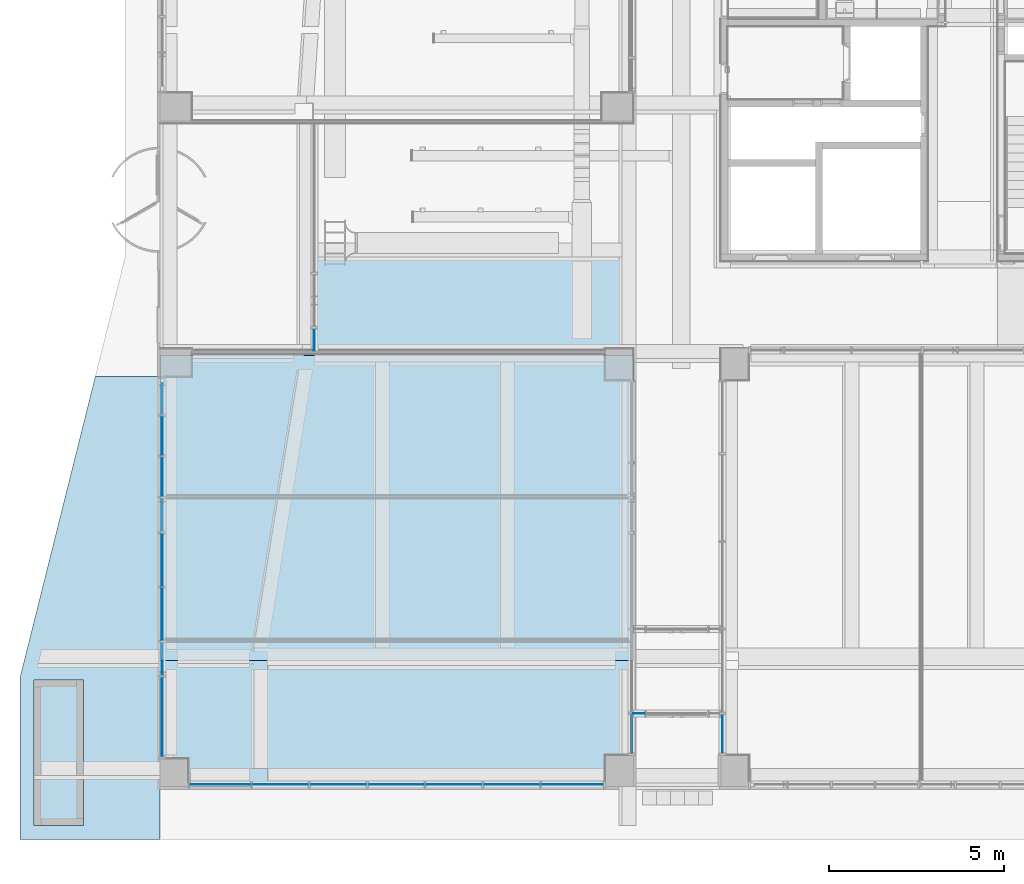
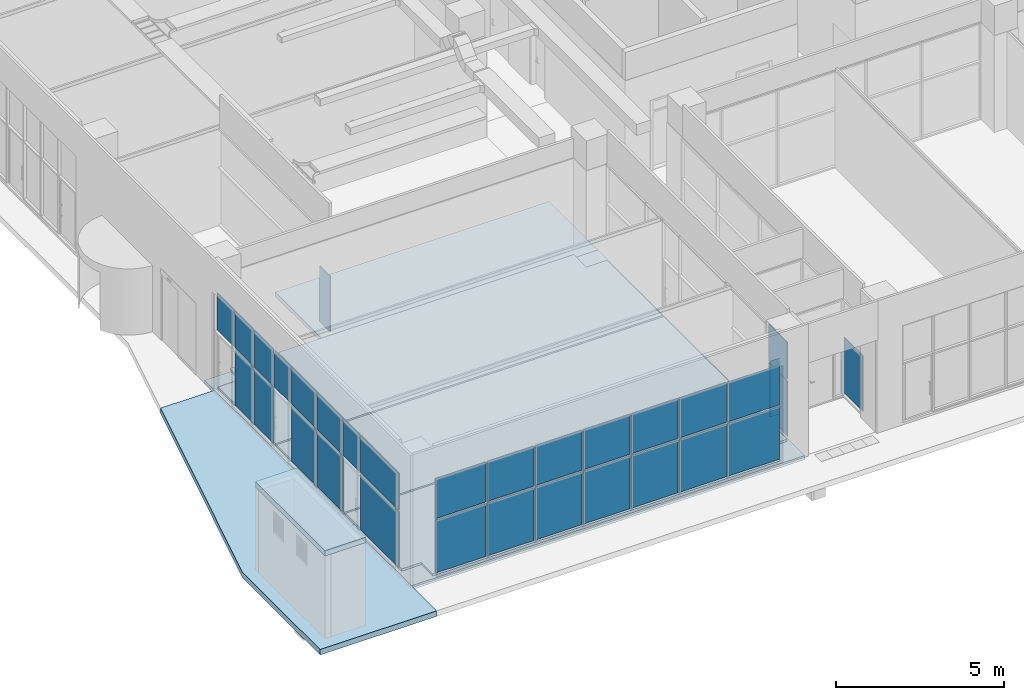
# One storey, part 21 of 100: 32 plates, 8 slabs, 7 elements without a shape of their own.
"""IFC2X3 building model written with IfcOpenShell, lengths in millimetres."""

from ifc_helpers import new_model, entity, si_unit, converted_unit, derived_unit, direction, frame, frame_2d, origin, origin_2d_with_axis, place, context, subcontext, project, spatial, polyline, rectangle, outline, extrude, source, transform, mapped, material, layer, layer_set, layer_usage, type_object, type_shapes, element, aggregate, save


model = new_model("IFC2X3")

# Units and contexts
model_context = context("Model", 3, precision=0.01, world=origin(), true_north=direction((6.123031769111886e-17, 1.0)))
body_context = subcontext(model_context, "Body", "Model", "MODEL_VIEW")
ifc_project = project(units=[si_unit("LENGTHUNIT", "METRE", prefix="MILLI"), si_unit("AREAUNIT", "SQUARE_METRE"), si_unit("VOLUMEUNIT", "CUBIC_METRE"), converted_unit("PLANEANGLEUNIT", "DEGREE", entity("IfcRatioMeasure", 0.017453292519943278), si_unit("PLANEANGLEUNIT", "RADIAN"), dimensions=[0, 0, 0, 0, 0, 0, 0]), si_unit("MASSUNIT", "GRAM", prefix="KILO"), derived_unit("MASSDENSITYUNIT", [(si_unit("MASSUNIT", "GRAM", prefix="KILO"), 1), (si_unit("LENGTHUNIT", "METRE"), -3)]), derived_unit("MOMENTOFINERTIAUNIT", [(si_unit("LENGTHUNIT", "METRE"), 4)]), si_unit("TIMEUNIT", "SECOND"), si_unit("FREQUENCYUNIT", "HERTZ"), si_unit("THERMODYNAMICTEMPERATUREUNIT", "DEGREE_CELSIUS"), derived_unit("THERMALTRANSMITTANCEUNIT", [(si_unit("MASSUNIT", "GRAM", prefix="KILO"), 1), (si_unit("THERMODYNAMICTEMPERATUREUNIT", "KELVIN"), -1), (si_unit("TIMEUNIT", "SECOND"), -3)]), derived_unit("VOLUMETRICFLOWRATEUNIT", [(si_unit("LENGTHUNIT", "METRE"), 3), (si_unit("TIMEUNIT", "SECOND"), -1)]), derived_unit("MASSFLOWRATEUNIT", [(si_unit("MASSUNIT", "GRAM", prefix="KILO"), 1), (si_unit("TIMEUNIT", "SECOND"), -1)]), derived_unit("ROTATIONALFREQUENCYUNIT", [(si_unit("TIMEUNIT", "SECOND"), -1)]), si_unit("ELECTRICCURRENTUNIT", "AMPERE"), si_unit("ELECTRICVOLTAGEUNIT", "VOLT"), si_unit("POWERUNIT", "WATT"), si_unit("FORCEUNIT", "NEWTON", prefix="KILO"), si_unit("ILLUMINANCEUNIT", "LUX"), si_unit("LUMINOUSFLUXUNIT", "LUMEN"), si_unit("LUMINOUSINTENSITYUNIT", "CANDELA"), derived_unit("USERDEFINED", [(si_unit("MASSUNIT", "GRAM", prefix="KILO"), -1), (si_unit("LENGTHUNIT", "METRE"), -2), (si_unit("TIMEUNIT", "SECOND"), 3), (si_unit("LUMINOUSFLUXUNIT", "LUMEN"), 1)]), derived_unit("SOUNDPOWERUNIT", [(si_unit("MASSUNIT", "GRAM", prefix="KILO"), 1), (si_unit("LENGTHUNIT", "METRE"), 2), (si_unit("TIMEUNIT", "SECOND"), -3)]), derived_unit("SOUNDPRESSUREUNIT", [(si_unit("MASSUNIT", "GRAM", prefix="KILO"), 1), (si_unit("LENGTHUNIT", "METRE"), -1), (si_unit("TIMEUNIT", "SECOND"), -2)]), derived_unit("LINEARVELOCITYUNIT", [(si_unit("LENGTHUNIT", "METRE"), 1), (si_unit("TIMEUNIT", "SECOND"), -1)]), si_unit("PRESSUREUNIT", "PASCAL"), derived_unit("USERDEFINED", [(si_unit("LENGTHUNIT", "METRE"), -2), (si_unit("MASSUNIT", "GRAM", prefix="KILO"), 1), (si_unit("TIMEUNIT", "SECOND"), -2)]), derived_unit("LINEARFORCEUNIT", [(si_unit("MASSUNIT", "GRAM", prefix="KILO"), 1), (si_unit("LENGTHUNIT", "METRE"), 1), (si_unit("TIMEUNIT", "SECOND"), -2), (si_unit("LENGTHUNIT", "METRE"), -1)]), derived_unit("PLANARFORCEUNIT", [(si_unit("MASSUNIT", "GRAM", prefix="KILO"), 1), (si_unit("LENGTHUNIT", "METRE"), 1), (si_unit("TIMEUNIT", "SECOND"), -2), (si_unit("LENGTHUNIT", "METRE"), -2)])], contexts=[model_context])

# Site, building, storey
site_placement = place(None, frame((-14167.972527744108, -657.2125860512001, 0.0)))
site = spatial("IfcSite", under=ifc_project, at=site_placement, Name="Default", CompositionType="ELEMENT")
building_placement = place(site_placement, origin())
building = spatial("IfcBuilding", under=site, at=building_placement, Name="Sample Building", CompositionType="ELEMENT")
storey_placement = place(building_placement, origin())
storey = spatial("IfcBuildingStorey", under=building, at=storey_placement, Name="지상 1층", CompositionType="ELEMENT", Elevation=0.0)

# Slabs
ifc_material_1 = material(Name="KBIMS-콘크리트")
ifc_layer_1 = layer(ifc_material_1, 150.0)
ifc_layer_set_1 = layer_set([ifc_layer_1], Name="바닥:SL111-철근콘크리트구조 바닥 150mm_S3")
ifc_layer_usage_1 = layer_usage(ifc_layer_set_1, "AXIS3", "POSITIVE", 0.0)
slab_type_1 = type_object("IfcSlabType", Name="바닥:SL111-철근콘크리트구조 바닥 150mm_S3", PredefinedType="FLOOR", material=ifc_layer_set_1)
slab_1_placement = place(storey_placement, origin())
element("IfcSlab", 1, at=slab_1_placement, inside=storey, type_object=slab_type_1, material=ifc_layer_usage_1, Name="바닥:SL111-철근콘크리트구조 바닥 150mm_S3", ObjectType="바닥:SL111-철근콘크리트구조 바닥 150mm_S3", PredefinedType="FLOOR", context=body_context, shape_type="SweptSolid", body=[
    extrude(rectangle(XDim=3600.0001879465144, YDim=13499.999999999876, at=origin_2d_with_axis()), frame((20817.955105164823, 2357.212289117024, 0.0), z_axis=(0.0, 0.0, -1.0), x_axis=(0.0, 1.0, 0.0)), (0.0, 0.0, 1.0), 150.0),
])
ifc_material_2 = material(Name="SL341-테라조 바닥 (바탕48mm, 마감32mm)")
ifc_layer_2 = layer(ifc_material_2, 80.0)
ifc_layer_set_2 = layer_set([ifc_layer_2], Name="바닥:A1-14-06B-테라조타일 (80mm)")
ifc_layer_usage_2 = layer_usage(ifc_layer_set_2, "AXIS3", "POSITIVE", 0.0)
slab_type_2 = type_object("IfcSlabType", Name="바닥:A1-14-06B-테라조타일 (80mm)", PredefinedType="FLOOR", material=ifc_layer_set_2)
slab_2_placement = place(storey_placement, origin())
element("IfcSlab", 2, at=slab_2_placement, inside=storey, type_object=slab_type_2, material=ifc_layer_usage_2, Name="바닥:A1-14-06B-테라조타일 (80mm)", ObjectType="바닥:A1-14-06B-테라조타일 (80mm)", PredefinedType="FLOOR", context=body_context, shape_type="SweptSolid", body=[
    extrude(outline(polyline([(-2688.776084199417, -6658.758692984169), (711.2586020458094, -6658.758692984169), (711.2586020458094, -5883.741343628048), (1366.2588801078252, -5883.741343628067), (1366.2588801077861, 5916.258692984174), (611.2586020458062, 5916.258692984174), (611.2586020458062, 6626.241343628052), (-2688.776084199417, 6626.241343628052), (-2688.776084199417, -6658.758692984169)])), frame((20851.713798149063, 11545.953705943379, 80.0), z_axis=(0.0, 0.0, -1.0), x_axis=(0.0, 1.0, 0.0)), (0.0, 0.0, 1.0), 80.0),
])

# Curtain wall, plates
curtain_wall_type = type_object("IfcCurtainWallType", Name="커튼월:CW112-스테인리스 스틸 커튼월", PredefinedType="NOTDEFINED")
curtain_wall_1_placement = place(storey_placement, origin())
curtain_wall_1 = element("IfcCurtainWall", 3, at=curtain_wall_1_placement, inside=storey, type_object=curtain_wall_type, Name="커튼월:CW112-스테인리스 스틸 커튼월", ObjectType="커튼월:CW112-스테인리스 스틸 커튼월")
ifc_material_3 = material(Name="KBIMS-로이유리(코팅)")
plate_type_1 = type_object("IfcPlateType", Name="CW300-THK24.Low-e coating glass:CW300-THK24.Low-e coating glass", PredefinedType="CURTAIN_PANEL", material=ifc_material_3)
shared_shape_1 = source(origin(), body_context, "Body", "SweptSolid", [
    extrude(rectangle(XDim=950.0000000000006, YDim=24.000000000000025, at=origin_2d_with_axis()), frame((0.0, 0.0, 0.0), z_axis=(0.0, 0.0, 1.0), x_axis=(-1.0, 0.0, 0.0)), (0.0, 0.0, 1.0), 1345.000000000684),
])
type_shapes(plate_type_1, [shared_shape_1])
plate_1_placement = place(curtain_wall_1_placement, frame((14129.839654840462, 4207.177624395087, 2205.0), z_axis=(0.0, 0.0, 1.0), x_axis=(0.0, -1.0, 0.0)))
plate_1 = element("IfcPlate", 4, at=plate_1_placement, type_object=plate_type_1, material=ifc_material_3, Name="CW300-THK24.Low-e coating glass:CW300-THK24.Low-e coating glass", ObjectType="CW300-THK24.Low-e coating glass:CW300-THK24.Low-e coating glass", context=body_context, shape_type="MappedRepresentation", body=[
    mapped(shared_shape_1, transform((0.0, 0.0, 0.0), scale=1.0)),
])
plate_type_2 = type_object("IfcPlateType", Name="CW300-THK24.Low-e coating glass:CW300-THK24.Low-e coating glass", PredefinedType="CURTAIN_PANEL", material=ifc_material_3)
shared_shape_2 = source(origin(), body_context, "Body", "SweptSolid", [
    extrude(rectangle(XDim=1119.9999999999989, YDim=24.000000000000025, at=origin_2d_with_axis()), frame((0.0, 0.0, 0.0), z_axis=(0.0, 0.0, 1.0), x_axis=(-1.0, 0.0, 0.0)), (0.0, 0.0, 1.0), 2024.9999999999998),
])
type_shapes(plate_type_2, [shared_shape_2])
plate_2_placement = place(curtain_wall_1_placement, frame((14129.839654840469, 10572.177624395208, 130.0), z_axis=(0.0, 0.0, 1.0), x_axis=(0.0, -1.0, 0.0)))
plate_2 = element("IfcPlate", 5, at=plate_2_placement, type_object=plate_type_2, material=ifc_material_3, Name="CW300-THK24.Low-e coating glass:CW300-THK24.Low-e coating glass", ObjectType="CW300-THK24.Low-e coating glass:CW300-THK24.Low-e coating glass", context=body_context, shape_type="MappedRepresentation", body=[
    mapped(shared_shape_2, transform((0.0, 0.0, 0.0), scale=1.0)),
])
plate_3_placement = place(curtain_wall_1_placement, frame((14129.839654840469, 9402.177624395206, 130.0), z_axis=(0.0, 0.0, 1.0), x_axis=(0.0, -1.0, 0.0)))
plate_3 = element("IfcPlate", 6, at=plate_3_placement, type_object=plate_type_2, material=ifc_material_3, Name="CW300-THK24.Low-e coating glass:CW300-THK24.Low-e coating glass", ObjectType="CW300-THK24.Low-e coating glass:CW300-THK24.Low-e coating glass", context=body_context, shape_type="MappedRepresentation", body=[
    mapped(shared_shape_2, transform((0.0, 0.0, 0.0), scale=1.0)),
])
plate_type_3 = type_object("IfcPlateType", Name="CW300-THK24.Low-e coating glass:CW300-THK24.Low-e coating glass", PredefinedType="CURTAIN_PANEL", material=ifc_material_3)
shared_shape_3 = source(origin(), body_context, "Body", "SweptSolid", [
    extrude(rectangle(XDim=1500.0, YDim=24.000000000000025, at=origin_2d_with_axis()), frame((0.0, 0.0, 0.0), z_axis=(0.0, 0.0, 1.0), x_axis=(-1.0, 0.0, 0.0)), (0.0, 0.0, 1.0), 2025.0000000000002),
])
type_shapes(plate_type_3, [shared_shape_3])
plate_4_placement = place(curtain_wall_1_placement, frame((14129.839654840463, 7032.177624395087, 130.0), z_axis=(0.0, 0.0, 1.0), x_axis=(0.0, -1.0, 0.0)))
plate_4 = element("IfcPlate", 7, at=plate_4_placement, type_object=plate_type_3, material=ifc_material_3, Name="CW300-THK24.Low-e coating glass:CW300-THK24.Low-e coating glass", ObjectType="CW300-THK24.Low-e coating glass:CW300-THK24.Low-e coating glass", context=body_context, shape_type="MappedRepresentation", body=[
    mapped(shared_shape_3, transform((0.0, 0.0, 0.0), scale=1.0)),
])
plate_5_placement = place(curtain_wall_1_placement, frame((14129.839654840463, 5482.177624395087, 130.0), z_axis=(0.0, 0.0, 1.0), x_axis=(0.0, -1.0, 0.0)))
plate_5 = element("IfcPlate", 8, at=plate_5_placement, type_object=plate_type_3, material=ifc_material_3, Name="CW300-THK24.Low-e coating glass:CW300-THK24.Low-e coating glass", ObjectType="CW300-THK24.Low-e coating glass:CW300-THK24.Low-e coating glass", context=body_context, shape_type="MappedRepresentation", body=[
    mapped(shared_shape_3, transform((0.0, 0.0, 0.0), scale=1.0)),
])
plate_type_4 = type_object("IfcPlateType", Name="CW300-THK24.Low-e coating glass:CW300-THK24.Low-e coating glass", PredefinedType="CURTAIN_PANEL", material=ifc_material_3)
shared_shape_4 = source(origin(), body_context, "Body", "SweptSolid", [
    extrude(rectangle(XDim=2274.9657383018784, YDim=24.000000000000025, at=origin_2d_with_axis()), frame((0.0, 0.0, 0.0), z_axis=(0.0, 0.0, 1.0), x_axis=(-1.0, 0.0, 0.0)), (0.0, 0.0, 1.0), 2024.9999999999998),
])
type_shapes(plate_type_4, [shared_shape_4])
plate_6_placement = place(curtain_wall_1_placement, frame((14129.83965484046, 2544.6947552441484, 130.0), z_axis=(0.0, 0.0, 1.0), x_axis=(0.0, -1.0, 0.0)))
plate_6 = element("IfcPlate", 9, at=plate_6_placement, type_object=plate_type_4, material=ifc_material_3, Name="CW300-THK24.Low-e coating glass:CW300-THK24.Low-e coating glass", ObjectType="CW300-THK24.Low-e coating glass:CW300-THK24.Low-e coating glass", context=body_context, shape_type="MappedRepresentation", body=[
    mapped(shared_shape_4, transform((0.0, 0.0, 0.0), scale=1.0)),
])
plate_type_5 = type_object("IfcPlateType", Name="CW300-THK24.Low-e coating glass:CW300-THK24.Low-e coating glass", PredefinedType="CURTAIN_PANEL", material=ifc_material_3)
shared_shape_5 = source(origin(), body_context, "Body", "SweptSolid", [
    extrude(rectangle(XDim=1025.0172668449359, YDim=24.000000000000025, at=origin_2d_with_axis()), frame((0.0, 0.0, 0.0), z_axis=(0.0, 0.0, 1.0), x_axis=(-1.0, 0.0, 0.0)), (0.0, 0.0, 1.0), 1345.000000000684),
])
type_shapes(plate_type_5, [shared_shape_5])
plate_7_placement = place(curtain_wall_1_placement, frame((14129.83965484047, 11694.686257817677, 2205.0), z_axis=(0.0, 0.0, 1.0), x_axis=(0.0, -1.0, 0.0)))
plate_7 = element("IfcPlate", 10, at=plate_7_placement, type_object=plate_type_5, material=ifc_material_3, Name="CW300-THK24.Low-e coating glass:CW300-THK24.Low-e coating glass", ObjectType="CW300-THK24.Low-e coating glass:CW300-THK24.Low-e coating glass", context=body_context, shape_type="MappedRepresentation", body=[
    mapped(shared_shape_5, transform((0.0, 0.0, 0.0), scale=1.0)),
])
plate_type_6 = type_object("IfcPlateType", Name="CW300-THK24.Low-e coating glass:CW300-THK24.Low-e coating glass", PredefinedType="CURTAIN_PANEL", material=ifc_material_3)
shared_shape_6 = source(origin(), body_context, "Body", "SweptSolid", [
    extrude(rectangle(XDim=1119.9999999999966, YDim=24.000000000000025, at=origin_2d_with_axis()), frame((0.0, 0.0, 0.0), z_axis=(0.0, 0.0, 1.0), x_axis=(-1.0, 0.0, 0.0)), (0.0, 0.0, 1.0), 1345.000000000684),
])
type_shapes(plate_type_6, [shared_shape_6])
plate_8_placement = place(curtain_wall_1_placement, frame((14129.839654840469, 10572.177624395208, 2205.0), z_axis=(0.0, 0.0, 1.0), x_axis=(0.0, -1.0, 0.0)))
plate_8 = element("IfcPlate", 11, at=plate_8_placement, type_object=plate_type_6, material=ifc_material_3, Name="CW300-THK24.Low-e coating glass:CW300-THK24.Low-e coating glass", ObjectType="CW300-THK24.Low-e coating glass:CW300-THK24.Low-e coating glass", context=body_context, shape_type="MappedRepresentation", body=[
    mapped(shared_shape_6, transform((0.0, 0.0, 0.0), scale=1.0)),
])
plate_9_placement = place(curtain_wall_1_placement, frame((14129.839654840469, 9402.177624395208, 2205.0), z_axis=(0.0, 0.0, 1.0), x_axis=(0.0, -1.0, 0.0)))
plate_9 = element("IfcPlate", 12, at=plate_9_placement, type_object=plate_type_6, material=ifc_material_3, Name="CW300-THK24.Low-e coating glass:CW300-THK24.Low-e coating glass", ObjectType="CW300-THK24.Low-e coating glass:CW300-THK24.Low-e coating glass", context=body_context, shape_type="MappedRepresentation", body=[
    mapped(shared_shape_6, transform((0.0, 0.0, 0.0), scale=1.0)),
])
plate_type_7 = type_object("IfcPlateType", Name="CW300-THK24.Low-e coating glass:CW300-THK24.Low-e coating glass", PredefinedType="CURTAIN_PANEL", material=ifc_material_3)
shared_shape_7 = source(origin(), body_context, "Body", "SweptSolid", [
    extrude(rectangle(XDim=960.0000000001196, YDim=24.000000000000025, at=origin_2d_with_axis()), frame((0.0, 0.0, 0.0), z_axis=(0.0, 0.0, 1.0), x_axis=(-1.0, 0.0, 0.0)), (0.0, 0.0, 1.0), 1345.0000000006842),
])
type_shapes(plate_type_7, [shared_shape_7])
plate_10_placement = place(curtain_wall_1_placement, frame((14129.839654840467, 8312.177624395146, 2205.0), z_axis=(0.0, 0.0, 1.0), x_axis=(0.0, -1.0, 0.0)))
plate_10 = element("IfcPlate", 13, at=plate_10_placement, type_object=plate_type_7, material=ifc_material_3, Name="CW300-THK24.Low-e coating glass:CW300-THK24.Low-e coating glass", ObjectType="CW300-THK24.Low-e coating glass:CW300-THK24.Low-e coating glass", context=body_context, shape_type="MappedRepresentation", body=[
    mapped(shared_shape_7, transform((0.0, 0.0, 0.0), scale=1.0)),
])
plate_type_8 = type_object("IfcPlateType", Name="CW300-THK24.Low-e coating glass:CW300-THK24.Low-e coating glass", PredefinedType="CURTAIN_PANEL", material=ifc_material_3)
shared_shape_8 = source(origin(), body_context, "Body", "SweptSolid", [
    extrude(rectangle(XDim=1500.0000000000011, YDim=24.000000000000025, at=origin_2d_with_axis()), frame((0.0, 0.0, 0.0), z_axis=(0.0, 0.0, 1.0), x_axis=(-1.0, 0.0, 0.0)), (0.0, 0.0, 1.0), 1345.0000000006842),
])
type_shapes(plate_type_8, [shared_shape_8])
plate_11_placement = place(curtain_wall_1_placement, frame((14129.839654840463, 7032.177624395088, 2205.0), z_axis=(0.0, 0.0, 1.0), x_axis=(0.0, -1.0, 0.0)))
plate_11 = element("IfcPlate", 14, at=plate_11_placement, type_object=plate_type_8, material=ifc_material_3, Name="CW300-THK24.Low-e coating glass:CW300-THK24.Low-e coating glass", ObjectType="CW300-THK24.Low-e coating glass:CW300-THK24.Low-e coating glass", context=body_context, shape_type="MappedRepresentation", body=[
    mapped(shared_shape_8, transform((0.0, 0.0, 0.0), scale=1.0)),
])
plate_12_placement = place(curtain_wall_1_placement, frame((14129.839654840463, 5482.177624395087, 2205.0), z_axis=(0.0, 0.0, 1.0), x_axis=(0.0, -1.0, 0.0)))
plate_12 = element("IfcPlate", 15, at=plate_12_placement, type_object=plate_type_8, material=ifc_material_3, Name="CW300-THK24.Low-e coating glass:CW300-THK24.Low-e coating glass", ObjectType="CW300-THK24.Low-e coating glass:CW300-THK24.Low-e coating glass", context=body_context, shape_type="MappedRepresentation", body=[
    mapped(shared_shape_8, transform((0.0, 0.0, 0.0), scale=1.0)),
])
plate_type_9 = type_object("IfcPlateType", Name="CW300-THK24.Low-e coating glass:CW300-THK24.Low-e coating glass", PredefinedType="CURTAIN_PANEL", material=ifc_material_3)
shared_shape_9 = source(origin(), body_context, "Body", "SweptSolid", [
    extrude(rectangle(XDim=2274.9657383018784, YDim=24.000000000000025, at=origin_2d_with_axis()), frame((0.0, 0.0, 0.0), z_axis=(0.0, 0.0, 1.0), x_axis=(-1.0, 0.0, 0.0)), (0.0, 0.0, 1.0), 1345.000000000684),
])
type_shapes(plate_type_9, [shared_shape_9])
plate_13_placement = place(curtain_wall_1_placement, frame((14129.83965484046, 2544.6947552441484, 2205.0), z_axis=(0.0, 0.0, 1.0), x_axis=(0.0, -1.0, 0.0)))
plate_13 = element("IfcPlate", 16, at=plate_13_placement, type_object=plate_type_9, material=ifc_material_3, Name="CW300-THK24.Low-e coating glass:CW300-THK24.Low-e coating glass", ObjectType="CW300-THK24.Low-e coating glass:CW300-THK24.Low-e coating glass", context=body_context, shape_type="MappedRepresentation", body=[
    mapped(shared_shape_9, transform((0.0, 0.0, 0.0), scale=1.0)),
])
aggregate(curtain_wall_1, [plate_2, plate_3, plate_4, plate_5, plate_6, plate_7, plate_8, plate_9, plate_10, plate_11, plate_12, plate_1, plate_13])

curtain_wall_2_placement = place(storey_placement, origin())
curtain_wall_2 = element("IfcCurtainWall", 17, at=curtain_wall_2_placement, inside=storey, type_object=curtain_wall_type, Name="커튼월:CW112-스테인리스 스틸 커튼월", ObjectType="커튼월:CW112-스테인리스 스틸 커튼월")
plate_type_10 = type_object("IfcPlateType", Name="CW300-THK24.Low-e coating glass:CW300-THK24.Low-e coating glass", PredefinedType="CURTAIN_PANEL", material=ifc_material_3)
shared_shape_10 = source(origin(), body_context, "Body", "SweptSolid", [
    extrude(rectangle(XDim=1730.7929085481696, YDim=24.000000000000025, at=origin_2d_with_axis()), frame((0.0, 0.0, 0.0), z_axis=(0.0, 0.0, 1.0), x_axis=(-1.0, 0.0, 0.0)), (0.0, 0.0, 1.0), 1924.9999999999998),
])
type_shapes(plate_type_10, [shared_shape_10])
plate_14_placement = place(curtain_wall_2_placement, frame((15783.368908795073, 619.7122951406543, 130.0)))
plate_14 = element("IfcPlate", 18, at=plate_14_placement, type_object=plate_type_10, material=ifc_material_3, Name="CW300-THK24.Low-e coating glass:CW300-THK24.Low-e coating glass", ObjectType="CW300-THK24.Low-e coating glass:CW300-THK24.Low-e coating glass", context=body_context, shape_type="MappedRepresentation", body=[
    mapped(shared_shape_10, transform((0.0, 0.0, 0.0), scale=1.0)),
])
plate_type_11 = type_object("IfcPlateType", Name="CW300-THK24.Low-e coating glass:CW300-THK24.Low-e coating glass", PredefinedType="CURTAIN_PANEL", material=ifc_material_3)
shared_shape_11 = source(origin(), body_context, "Body", "SweptSolid", [
    extrude(rectangle(XDim=1600.0000000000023, YDim=24.000000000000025, at=origin_2d_with_axis()), frame((0.0, 0.0, 0.0), z_axis=(0.0, 0.0, 1.0), x_axis=(-1.0, 0.0, 0.0)), (0.0, 0.0, 1.0), 1925.0000000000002),
])
type_shapes(plate_type_11, [shared_shape_11])
plate_15_placement = place(curtain_wall_2_placement, frame((17498.765363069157, 619.7122951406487, 130.0)))
plate_15 = element("IfcPlate", 19, at=plate_15_placement, type_object=plate_type_11, material=ifc_material_3, Name="CW300-THK24.Low-e coating glass:CW300-THK24.Low-e coating glass", ObjectType="CW300-THK24.Low-e coating glass:CW300-THK24.Low-e coating glass", context=body_context, shape_type="MappedRepresentation", body=[
    mapped(shared_shape_11, transform((0.0, 0.0, 0.0), scale=1.0)),
])
plate_16_placement = place(curtain_wall_2_placement, frame((19148.765363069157, 619.7122951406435, 130.0)))
plate_16 = element("IfcPlate", 20, at=plate_16_placement, type_object=plate_type_11, material=ifc_material_3, Name="CW300-THK24.Low-e coating glass:CW300-THK24.Low-e coating glass", ObjectType="CW300-THK24.Low-e coating glass:CW300-THK24.Low-e coating glass", context=body_context, shape_type="MappedRepresentation", body=[
    mapped(shared_shape_11, transform((0.0, 0.0, 0.0), scale=1.0)),
])
plate_17_placement = place(curtain_wall_2_placement, frame((20798.765363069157, 619.7122951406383, 130.0)))
plate_17 = element("IfcPlate", 21, at=plate_17_placement, type_object=plate_type_11, material=ifc_material_3, Name="CW300-THK24.Low-e coating glass:CW300-THK24.Low-e coating glass", ObjectType="CW300-THK24.Low-e coating glass:CW300-THK24.Low-e coating glass", context=body_context, shape_type="MappedRepresentation", body=[
    mapped(shared_shape_11, transform((0.0, 0.0, 0.0), scale=1.0)),
])
plate_18_placement = place(curtain_wall_2_placement, frame((22448.765363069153, 619.7122951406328, 130.0)))
plate_18 = element("IfcPlate", 22, at=plate_18_placement, type_object=plate_type_11, material=ifc_material_3, Name="CW300-THK24.Low-e coating glass:CW300-THK24.Low-e coating glass", ObjectType="CW300-THK24.Low-e coating glass:CW300-THK24.Low-e coating glass", context=body_context, shape_type="MappedRepresentation", body=[
    mapped(shared_shape_11, transform((0.0, 0.0, 0.0), scale=1.0)),
])
plate_19_placement = place(curtain_wall_2_placement, frame((24098.76536306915, 619.7122951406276, 130.0)))
plate_19 = element("IfcPlate", 23, at=plate_19_placement, type_object=plate_type_11, material=ifc_material_3, Name="CW300-THK24.Low-e coating glass:CW300-THK24.Low-e coating glass", ObjectType="CW300-THK24.Low-e coating glass:CW300-THK24.Low-e coating glass", context=body_context, shape_type="MappedRepresentation", body=[
    mapped(shared_shape_11, transform((0.0, 0.0, 0.0), scale=1.0)),
])
plate_type_12 = type_object("IfcPlateType", Name="CW300-THK24.Low-e coating glass:CW300-THK24.Low-e coating glass", PredefinedType="CURTAIN_PANEL", material=ifc_material_3)
shared_shape_12 = source(origin(), body_context, "Body", "SweptSolid", [
    extrude(rectangle(XDim=1769.2071280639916, YDim=24.000000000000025, at=origin_2d_with_axis()), frame((0.0, 0.0, 0.0), z_axis=(0.0, 0.0, 1.0), x_axis=(-1.0, 0.0, 0.0)), (0.0, 0.0, 1.0), 1924.9999999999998),
])
type_shapes(plate_type_12, [shared_shape_12])
plate_20_placement = place(curtain_wall_2_placement, frame((25833.368927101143, 619.7122951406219, 130.0)))
plate_20 = element("IfcPlate", 24, at=plate_20_placement, type_object=plate_type_12, material=ifc_material_3, Name="CW300-THK24.Low-e coating glass:CW300-THK24.Low-e coating glass", ObjectType="CW300-THK24.Low-e coating glass:CW300-THK24.Low-e coating glass", context=body_context, shape_type="MappedRepresentation", body=[
    mapped(shared_shape_12, transform((0.0, 0.0, 0.0), scale=1.0)),
])
plate_type_13 = type_object("IfcPlateType", Name="CW300-THK24.Low-e coating glass:CW300-THK24.Low-e coating glass", PredefinedType="CURTAIN_PANEL", material=ifc_material_3)
shared_shape_13 = source(origin(), body_context, "Body", "SweptSolid", [
    extrude(rectangle(XDim=1730.7929085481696, YDim=24.000000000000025, at=origin_2d_with_axis()), frame((0.0, 0.0, 0.0), z_axis=(0.0, 0.0, 1.0), x_axis=(-1.0, 0.0, 0.0)), (0.0, 0.0, 1.0), 1445.000000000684),
])
type_shapes(plate_type_13, [shared_shape_13])
plate_21_placement = place(curtain_wall_2_placement, frame((15783.368908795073, 619.7122951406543, 2105.0)))
plate_21 = element("IfcPlate", 25, at=plate_21_placement, type_object=plate_type_13, material=ifc_material_3, Name="CW300-THK24.Low-e coating glass:CW300-THK24.Low-e coating glass", ObjectType="CW300-THK24.Low-e coating glass:CW300-THK24.Low-e coating glass", context=body_context, shape_type="MappedRepresentation", body=[
    mapped(shared_shape_13, transform((0.0, 0.0, 0.0), scale=1.0)),
])
plate_type_14 = type_object("IfcPlateType", Name="CW300-THK24.Low-e coating glass:CW300-THK24.Low-e coating glass", PredefinedType="CURTAIN_PANEL", material=ifc_material_3)
shared_shape_14 = source(origin(), body_context, "Body", "SweptSolid", [
    extrude(rectangle(XDim=1600.0000000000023, YDim=24.000000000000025, at=origin_2d_with_axis()), frame((0.0, 0.0, 0.0), z_axis=(0.0, 0.0, 1.0), x_axis=(-1.0, 0.0, 0.0)), (0.0, 0.0, 1.0), 1445.0000000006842),
])
type_shapes(plate_type_14, [shared_shape_14])
plate_22_placement = place(curtain_wall_2_placement, frame((17498.765363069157, 619.7122951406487, 2105.0)))
plate_22 = element("IfcPlate", 26, at=plate_22_placement, type_object=plate_type_14, material=ifc_material_3, Name="CW300-THK24.Low-e coating glass:CW300-THK24.Low-e coating glass", ObjectType="CW300-THK24.Low-e coating glass:CW300-THK24.Low-e coating glass", context=body_context, shape_type="MappedRepresentation", body=[
    mapped(shared_shape_14, transform((0.0, 0.0, 0.0), scale=1.0)),
])
plate_23_placement = place(curtain_wall_2_placement, frame((19148.765363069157, 619.7122951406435, 2105.0)))
plate_23 = element("IfcPlate", 27, at=plate_23_placement, type_object=plate_type_14, material=ifc_material_3, Name="CW300-THK24.Low-e coating glass:CW300-THK24.Low-e coating glass", ObjectType="CW300-THK24.Low-e coating glass:CW300-THK24.Low-e coating glass", context=body_context, shape_type="MappedRepresentation", body=[
    mapped(shared_shape_14, transform((0.0, 0.0, 0.0), scale=1.0)),
])
plate_24_placement = place(curtain_wall_2_placement, frame((20798.765363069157, 619.7122951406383, 2105.0)))
plate_24 = element("IfcPlate", 28, at=plate_24_placement, type_object=plate_type_14, material=ifc_material_3, Name="CW300-THK24.Low-e coating glass:CW300-THK24.Low-e coating glass", ObjectType="CW300-THK24.Low-e coating glass:CW300-THK24.Low-e coating glass", context=body_context, shape_type="MappedRepresentation", body=[
    mapped(shared_shape_14, transform((0.0, 0.0, 0.0), scale=1.0)),
])
plate_25_placement = place(curtain_wall_2_placement, frame((22448.765363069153, 619.7122951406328, 2105.0)))
plate_25 = element("IfcPlate", 29, at=plate_25_placement, type_object=plate_type_14, material=ifc_material_3, Name="CW300-THK24.Low-e coating glass:CW300-THK24.Low-e coating glass", ObjectType="CW300-THK24.Low-e coating glass:CW300-THK24.Low-e coating glass", context=body_context, shape_type="MappedRepresentation", body=[
    mapped(shared_shape_14, transform((0.0, 0.0, 0.0), scale=1.0)),
])
plate_26_placement = place(curtain_wall_2_placement, frame((24098.76536306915, 619.7122951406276, 2105.0)))
plate_26 = element("IfcPlate", 30, at=plate_26_placement, type_object=plate_type_14, material=ifc_material_3, Name="CW300-THK24.Low-e coating glass:CW300-THK24.Low-e coating glass", ObjectType="CW300-THK24.Low-e coating glass:CW300-THK24.Low-e coating glass", context=body_context, shape_type="MappedRepresentation", body=[
    mapped(shared_shape_14, transform((0.0, 0.0, 0.0), scale=1.0)),
])
plate_type_15 = type_object("IfcPlateType", Name="CW300-THK24.Low-e coating glass:CW300-THK24.Low-e coating glass", PredefinedType="CURTAIN_PANEL", material=ifc_material_3)
shared_shape_15 = source(origin(), body_context, "Body", "SweptSolid", [
    extrude(rectangle(XDim=1769.2071280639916, YDim=24.000000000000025, at=origin_2d_with_axis()), frame((0.0, 0.0, 0.0), z_axis=(0.0, 0.0, 1.0), x_axis=(-1.0, 0.0, 0.0)), (0.0, 0.0, 1.0), 1445.000000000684),
])
type_shapes(plate_type_15, [shared_shape_15])
plate_27_placement = place(curtain_wall_2_placement, frame((25833.368927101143, 619.7122951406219, 2105.0)))
plate_27 = element("IfcPlate", 31, at=plate_27_placement, type_object=plate_type_15, material=ifc_material_3, Name="CW300-THK24.Low-e coating glass:CW300-THK24.Low-e coating glass", ObjectType="CW300-THK24.Low-e coating glass:CW300-THK24.Low-e coating glass", context=body_context, shape_type="MappedRepresentation", body=[
    mapped(shared_shape_15, transform((0.0, 0.0, 0.0), scale=1.0)),
])
aggregate(curtain_wall_2, [plate_14, plate_15, plate_16, plate_17, plate_18, plate_19, plate_20, plate_21, plate_22, plate_23, plate_24, plate_25, plate_26, plate_27])

# Curtain wall, plate
curtain_wall_3_placement = place(storey_placement, origin())
curtain_wall_3 = element("IfcCurtainWall", 32, at=curtain_wall_3_placement, inside=storey, type_object=curtain_wall_type, Name="커튼월:CW112-스테인리스 스틸 커튼월", ObjectType="커튼월:CW112-스테인리스 스틸 커튼월")
plate_type_16 = type_object("IfcPlateType", Name="CW300-THK24.Low-e coating glass:CW300-THK24.Low-e coating glass", PredefinedType="CURTAIN_PANEL", material=ifc_material_3)
shared_shape_16 = source(origin(), body_context, "Body", "SweptSolid", [
    extrude(rectangle(XDim=24.000000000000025, YDim=630.0557480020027, at=origin_2d_with_axis()), frame((0.0, 0.0, 0.0), z_axis=(0.0, 0.0, 1.0), x_axis=(0.0, 1.0, 0.0)), (0.0, 0.0, 1.0), 2025.0000000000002),
])
type_shapes(plate_type_16, [shared_shape_16])
plate_28_placement = place(curtain_wall_3_placement, frame((18467.963798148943, 13317.240460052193, 130.0), z_axis=(0.0, 0.0, 1.0), x_axis=(0.0, -1.0, 0.0)))
plate_28 = element("IfcPlate", 33, at=plate_28_placement, type_object=plate_type_16, material=ifc_material_3, Name="CW300-THK24.Low-e coating glass:CW300-THK24.Low-e coating glass", ObjectType="CW300-THK24.Low-e coating glass:CW300-THK24.Low-e coating glass", context=body_context, shape_type="MappedRepresentation", body=[
    mapped(shared_shape_16, transform((0.0, 0.0, 0.0), scale=1.0)),
])
aggregate(curtain_wall_3, [plate_28])

# Curtain wall, plates
curtain_wall_4_placement = place(storey_placement, origin())
curtain_wall_4 = element("IfcCurtainWall", 34, at=curtain_wall_4_placement, inside=storey, type_object=curtain_wall_type, Name="커튼월:CW112-스테인리스 스틸 커튼월", ObjectType="커튼월:CW112-스테인리스 스틸 커튼월")
plate_type_17 = type_object("IfcPlateType", Name="CW300-THK24.Low-e coating glass:CW300-THK24.Low-e coating glass", PredefinedType="CURTAIN_PANEL", material=ifc_material_3)
shared_shape_17 = source(origin(), body_context, "Body", "SweptSolid", [
    extrude(rectangle(XDim=1124.999713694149, YDim=24.000000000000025, at=origin_2d_with_axis()), frame((0.0, 0.0, 0.0), z_axis=(0.0, 0.0, 1.0), x_axis=(-1.0, 0.0, 0.0)), (0.0, 0.0, 1.0), 2024.9999999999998),
])
type_shapes(plate_type_17, [shared_shape_17])
plate_29_placement = place(curtain_wall_4_placement, frame((27522.9551417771, 2069.7124738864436, 130.0), z_axis=(0.0, 0.0, 1.0), x_axis=(0.0, 1.0, 0.0)))
plate_29 = element("IfcPlate", 35, at=plate_29_placement, type_object=plate_type_17, material=ifc_material_3, Name="CW300-THK24.Low-e coating glass:CW300-THK24.Low-e coating glass", ObjectType="CW300-THK24.Low-e coating glass:CW300-THK24.Low-e coating glass", context=body_context, shape_type="MappedRepresentation", body=[
    mapped(shared_shape_17, transform((0.0, 0.0, 0.0), scale=1.0)),
])
plate_type_18 = type_object("IfcPlateType", Name="CW300-THK24.Low-e coating glass:CW300-THK24.Low-e coating glass", PredefinedType="CURTAIN_PANEL", material=ifc_material_3)
shared_shape_18 = source(origin(), body_context, "Body", "SweptSolid", [
    extrude(rectangle(XDim=1124.999713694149, YDim=24.000000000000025, at=origin_2d_with_axis()), frame((0.0, 0.0, 0.0), z_axis=(0.0, 0.0, 1.0), x_axis=(-1.0, 0.0, 0.0)), (0.0, 0.0, 1.0), 1345.000000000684),
])
type_shapes(plate_type_18, [shared_shape_18])
plate_30_placement = place(curtain_wall_4_placement, frame((27522.9551417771, 2069.7124738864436, 2205.0), z_axis=(0.0, 0.0, 1.0), x_axis=(0.0, 1.0, 0.0)))
plate_30 = element("IfcPlate", 36, at=plate_30_placement, type_object=plate_type_18, material=ifc_material_3, Name="CW300-THK24.Low-e coating glass:CW300-THK24.Low-e coating glass", ObjectType="CW300-THK24.Low-e coating glass:CW300-THK24.Low-e coating glass", context=body_context, shape_type="MappedRepresentation", body=[
    mapped(shared_shape_18, transform((0.0, 0.0, 0.0), scale=1.0)),
])
aggregate(curtain_wall_4, [plate_29, plate_30])

# Curtain wall, plate
curtain_wall_5_placement = place(storey_placement, origin())
curtain_wall_5 = element("IfcCurtainWall", 37, at=curtain_wall_5_placement, inside=storey, type_object=curtain_wall_type, Name="커튼월:CW112-스테인리스 스틸 커튼월", ObjectType="커튼월:CW112-스테인리스 스틸 커튼월")
plate_type_19 = type_object("IfcPlateType", Name="CW300-THK24.Low-e coating glass:CW300-THK24.Low-e coating glass", PredefinedType="CURTAIN_PANEL", material=ifc_material_3)
shared_shape_19 = source(origin(), body_context, "Body", "SweptSolid", [
    extrude(rectangle(XDim=1125.000022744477, YDim=24.000000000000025, at=origin_2d_with_axis()), frame((0.0, 0.0, 0.0), z_axis=(0.0, 0.0, 1.0), x_axis=(-1.0, 0.0, 0.0)), (0.0, 0.0, 1.0), 2025.0000000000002),
])
type_shapes(plate_type_19, [shared_shape_19])
plate_31_placement = place(curtain_wall_5_placement, frame((30112.97249113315, 2069.7123193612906, 130.0), z_axis=(0.0, 0.0, 1.0), x_axis=(0.0, -1.0, 0.0)))
plate_31 = element("IfcPlate", 38, at=plate_31_placement, type_object=plate_type_19, material=ifc_material_3, Name="CW300-THK24.Low-e coating glass:CW300-THK24.Low-e coating glass", ObjectType="CW300-THK24.Low-e coating glass:CW300-THK24.Low-e coating glass", context=body_context, shape_type="MappedRepresentation", body=[
    mapped(shared_shape_19, transform((0.0, 0.0, 0.0), scale=1.0)),
])
aggregate(curtain_wall_5, [plate_31])

# Slab
ifc_layer_3 = layer(ifc_material_1, 200.0)
ifc_layer_set_3 = layer_set([ifc_layer_3], Name="바닥:SL111-철근콘크리트구조 바닥 200mm_S12")
ifc_layer_usage_3 = layer_usage(ifc_layer_set_3, "AXIS3", "POSITIVE", 0.0)
slab_type_3 = type_object("IfcSlabType", Name="바닥:SL111-철근콘크리트구조 바닥 200mm_S12", PredefinedType="FLOOR", material=ifc_layer_set_3)
slab_3_placement = place(storey_placement, origin())
element("IfcSlab", 39, at=slab_3_placement, inside=storey, type_object=slab_type_3, material=ifc_layer_usage_3, Name="바닥:SL111-철근콘크리트구조 바닥 200mm_S12", ObjectType="바닥:SL111-철근콘크리트구조 바닥 200mm_S12", PredefinedType="FLOOR", context=body_context, shape_type="SweptSolid", body=[
    extrude(outline(polyline([(-6202.462117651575, -2029.3809953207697), (-1590.1515550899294, -2029.3809953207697), (6997.537895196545, 117.54136725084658), (6997.537895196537, 1970.6103116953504), (-6202.462117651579, 1970.6103116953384), (-6202.462117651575, -2029.3809953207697)])), frame((12097.344793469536, 5259.674412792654, 0.0), z_axis=(0.0, 0.0, -1.0), x_axis=(0.0, 1.0, 0.0)), (0.0, 0.0, 1.0), 200.0),
])

# Curtain wall, plate
curtain_wall_6_placement = place(storey_placement, origin())
curtain_wall_6 = element("IfcCurtainWall", 40, at=curtain_wall_6_placement, inside=storey, type_object=curtain_wall_type, Name="커튼월:CW112-스테인리스 스틸 커튼월", ObjectType="커튼월:CW112-스테인리스 스틸 커튼월")
plate_type_20 = type_object("IfcPlateType", Name="CW300-THK24.Low-e coating glass:CW300-THK24.Low-e coating glass", PredefinedType="CURTAIN_PANEL", material=ifc_material_3)
shared_shape_20 = source(origin(), body_context, "Body", "SweptSolid", [
    extrude(rectangle(XDim=320.11777367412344, YDim=24.000000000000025, at=origin_2d_with_axis()), frame((0.0, 0.0, 0.0), z_axis=(0.0, 0.0, 1.0), x_axis=(-1.0, 0.0, 0.0)), (0.0, 0.0, 1.0), 2025.0000000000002),
])
type_shapes(plate_type_20, [shared_shape_20])
plate_32_placement = place(curtain_wall_6_placement, frame((27733.01402861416, 2645.1776243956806, 130.0), z_axis=(0.0, 0.0, 1.0), x_axis=(-1.0, 0.0, 0.0)))
plate_32 = element("IfcPlate", 41, at=plate_32_placement, type_object=plate_type_20, material=ifc_material_3, Name="CW300-THK24.Low-e coating glass:CW300-THK24.Low-e coating glass", ObjectType="CW300-THK24.Low-e coating glass:CW300-THK24.Low-e coating glass", context=body_context, shape_type="MappedRepresentation", body=[
    mapped(shared_shape_20, transform((0.0, 0.0, 0.0), scale=1.0)),
])
aggregate(curtain_wall_6, [plate_32])

# Roof, slab
ifc_material_4 = material(Name="KBIMS-철근콘크리트")
ifc_layer_4 = layer(ifc_material_4, 200.0)
ifc_layer_set_4 = layer_set([ifc_layer_4], Name="기본 지붕:RF111-철근콘크리트구조 지붕")
roof_placement = place(storey_placement, frame((10467.972417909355, -542.7877350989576, 3000.0)))
roof = element("IfcRoof", 42, at=roof_placement, inside=storey, material=ifc_layer_set_4, Name="기본 지붕:RF111-철근콘크리트구조 지붕", ObjectType="기본 지붕:RF111-철근콘크리트구조 지붕", ShapeType="NOTDEFINED")
slab_type_4 = type_object("IfcSlabType", Name="기본 지붕:RF111-철근콘크리트구조 지붕", PredefinedType="ROOF")
slab_4_placement = place(roof_placement, origin())
slab_4 = element("IfcSlab", 43, at=slab_4_placement, type_object=slab_type_4, material=ifc_layer_set_4, Name="기본 지붕:RF111-철근콘크리트구조 지붕", ObjectType="기본 지붕:RF111-철근콘크리트구조 지붕", PredefinedType="ROOF", context=body_context, shape_type="SweptSolid", body=[
    extrude(rectangle(XDim=1409.9999999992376, YDim=4145.701555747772, at=origin_2d_with_axis()), frame((705.0, 2072.850777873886, 0.0)), (0.0, 0.0, 1.0), 200.0),
])
aggregate(roof, [slab_4])

# Slabs
ifc_layer_5 = layer(ifc_material_1, 150.0)
ifc_layer_set_5 = layer_set([ifc_layer_5], Name="바닥:SL111-철근콘크리트구조 바닥 150mm_S2")
ifc_layer_usage_4 = layer_usage(ifc_layer_set_5, "AXIS3", "POSITIVE", 0.0)
slab_type_5 = type_object("IfcSlabType", Name="바닥:SL111-철근콘크리트구조 바닥 150mm_S2", PredefinedType="FLOOR", material=ifc_layer_set_5)
slab_5_placement = place(storey_placement, origin())
element("IfcSlab", 44, at=slab_5_placement, inside=storey, type_object=slab_type_5, material=ifc_layer_usage_4, Name="바닥:SL111-철근콘크리트구조 바닥 150mm_S2", ObjectType="바닥:SL111-철근콘크리트구조 바닥 150mm_S2", PredefinedType="FLOOR", context=body_context, shape_type="SweptSolid", body=[
    extrude(rectangle(XDim=8699.99991205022, YDim=13499.982650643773, at=origin_2d_with_axis()), frame((20817.963779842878, 8507.212339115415, 0.0), z_axis=(0.0, 0.0, -1.0), x_axis=(0.0, 1.0, 0.0)), (0.0, 0.0, 1.0), 150.0),
])
ifc_layer_usage_5 = layer_usage(ifc_layer_set_1, "AXIS3", "POSITIVE", 0.0)
slab_type_6 = type_object("IfcSlabType", Name="바닥:SL111-철근콘크리트구조 바닥 150mm_S3", PredefinedType="FLOOR", material=ifc_layer_set_1)
slab_6_placement = place(storey_placement, origin())
element("IfcSlab", 45, at=slab_6_placement, inside=storey, type_object=slab_type_6, material=ifc_layer_usage_5, Name="바닥:SL111-철근콘크리트구조 바닥 150mm_S3", ObjectType="바닥:SL111-철근콘크리트구조 바닥 150mm_S3", PredefinedType="FLOOR", context=body_context, shape_type="SweptSolid", body=[
    extrude(rectangle(XDim=2899.999958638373, YDim=9399.991307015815, at=frame_2d((0.0, -4.092726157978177e-12), x_axis=(1.0, 0.0))), frame((22867.95945165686, 14307.21227445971, 0.0), z_axis=(0.0, 0.0, -1.0), x_axis=(0.0, 1.0, 0.0)), (0.0, 0.0, 1.0), 150.0),
])
ifc_layer_usage_6 = layer_usage(ifc_layer_set_2, "AXIS3", "POSITIVE", 0.0)
slab_type_7 = type_object("IfcSlabType", Name="바닥:A1-14-06B-테라조타일 (80mm)", PredefinedType="FLOOR", material=ifc_layer_set_2)
slab_7_placement = place(storey_placement, origin())
element("IfcSlab", 46, at=slab_7_placement, inside=storey, type_object=slab_type_7, material=ifc_layer_usage_6, Name="바닥:A1-14-06B-테라조타일 (80mm)", ObjectType="바닥:A1-14-06B-테라조타일 (80mm)", PredefinedType="FLOOR", context=body_context, shape_type="SweptSolid", body=[
    extrude(rectangle(XDim=4037.500001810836, YDim=13285.000036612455, at=frame_2d((0.0, 8.640199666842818e-12), x_axis=(1.0, 0.0))), frame((20835.45512347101, 6775.927620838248, 80.0), z_axis=(0.0, 0.0, -1.0), x_axis=(0.0, 1.0, 0.0)), (0.0, 0.0, 1.0), 80.0),
])
ifc_layer_usage_7 = layer_usage(ifc_layer_set_2, "AXIS3", "POSITIVE", 0.0)
slab_type_8 = type_object("IfcSlabType", Name="바닥:A1-14-06B-테라조타일 (80mm)", PredefinedType="FLOOR", material=ifc_layer_set_2)
slab_8_placement = place(storey_placement, origin())
element("IfcSlab", 47, at=slab_8_placement, inside=storey, type_object=slab_type_8, material=ifc_layer_usage_7, Name="바닥:A1-14-06B-테라조타일 (80mm)", ObjectType="바닥:A1-14-06B-테라조타일 (80mm)", PredefinedType="FLOOR", context=body_context, shape_type="SweptSolid", body=[
    extrude(outline(polyline([(-690.6165357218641, -6633.758692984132), (2646.849198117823, -6633.758692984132), (2646.8491981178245, 6651.241343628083), (-590.6165357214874, 6651.241343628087), (-590.6165357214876, 5941.25869298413), (-1365.6161266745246, 5941.258692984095), (-1365.6161266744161, -5958.741343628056), (-690.6165357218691, -5958.741343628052), (-690.6165357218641, -6633.758692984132)])), frame((20826.713798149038, 2047.828421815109, 80.0), z_axis=(0.0, 0.0, -1.0), x_axis=(0.0, 1.0, 0.0)), (0.0, 0.0, 1.0), 80.0),
])

save(model, "model.ifc")
